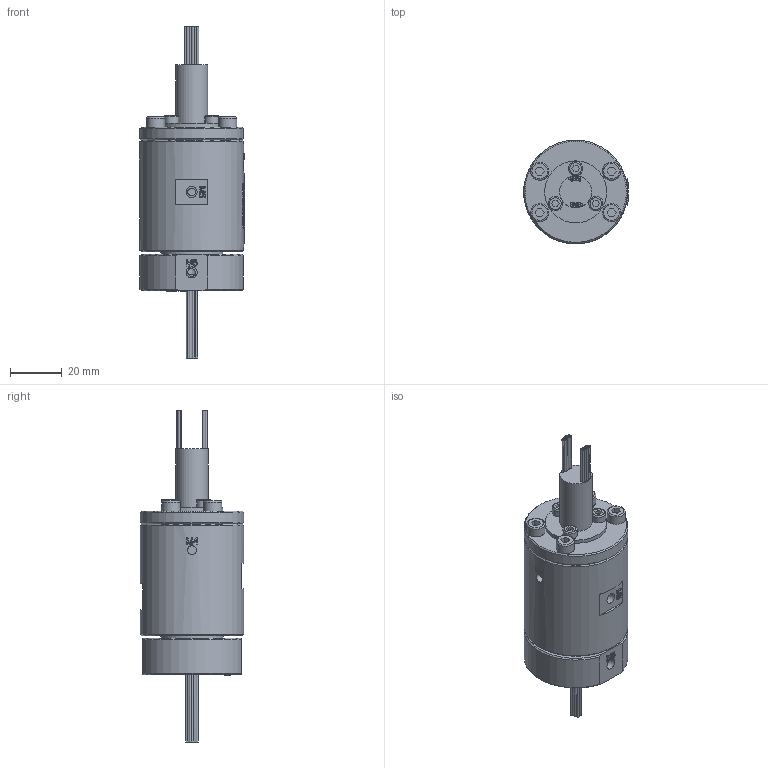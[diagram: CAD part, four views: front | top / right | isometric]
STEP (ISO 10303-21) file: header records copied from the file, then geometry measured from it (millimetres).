
FILE_DESCRIPTION(/* description */ (''),/* implementation_level */ '2;1');
FILE_NAME(/* name */ 'HQ02005-18M.stp',/* time_stamp */ '2025-09-01T09:53:33+08:00',/* author */ (''),/* organization */ (''),/* preprocessor_version */ 'ST-DEVELOPER v16.7',/* originating_system */ 'SIEMENS PLM Software NX 12.0',/* authorisation */ '');
FILE_SCHEMA (('AUTOMOTIVE_DESIGN { 1 0 10303 214 3 1 1 1 }'));
Length unit declared in the file: millimetre
Products named in the file (1): Admi1DF097DFvvuy
Bounding box: 40.68 x 40 x 128 mm (x, y, z)
Volume: 81146 mm3; surface area: 17656.5 mm2
Topology: 1 solids, 9 shells, 1055 faces, 2760 edges, 1841 vertices
Faces by surface type: plane 501, extrusion 385, cylinder 99, bspline 42, cone 21, torus 7
Full cylindrical faces by diameter (mm): 0.8 x37, 3 x7, 3.4 x9, 4 x6, 4.1 x2, 4.2 x6, 5 x1, 5.5 x3, 6 x1, 7 x4, 12.4 x1, 23.9 x1, 24 x1, 32 x1, 40 x2
Entity records: 38412 total; most frequent: CARTESIAN_POINT 16234, ORIENTED_EDGE 5200, DIRECTION 2911, EDGE_CURVE 2600, B_SPLINE_CURVE_WITH_KNOTS 2082, VERTEX_POINT 1793, EDGE_LOOP 1301, ADVANCED_FACE 1055
